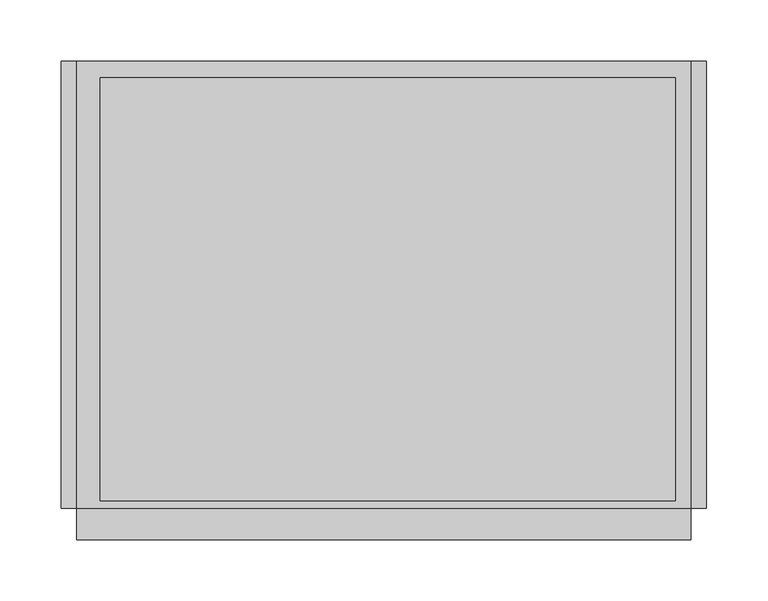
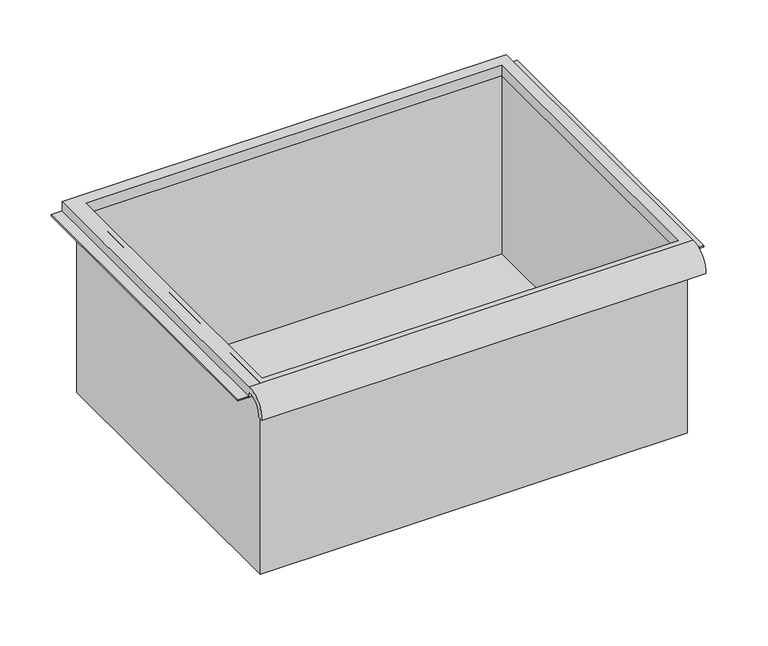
"""IFC4 building model written with IfcOpenShell, lengths in millimetres: furniture geometry."""

from ifc_helpers import new_model, si_unit, frame, origin, place, context, project, spatial, polyline, circle_curve, faceted_brep, source, transform, mapped, element, save
from ifc_brep_helpers import plane_surface, cylinder_surface, revolved_surface, advanced_brep


def furniture_b8eafee2(model_context):
    return source(origin(), model_context, "Body", "SolidModel", [
        advanced_brep(
        [(263.7474999, -195.297482, 1466.0510272), (263.7474999, -188.9125, 1466.0510272), (263.7474999, -169.8625, 1484.3125004), (263.7474999, -169.8625, 1477.9625), (263.7474999, 195.2625, 1477.9625), (263.7474999, 195.2625, 1490.6625004), (263.7474999, -169.8625, 1490.6625004), (-237.9025001, -195.297482, 1466.0510272), (-237.9025001, -169.8625, 1490.6625004), (-237.9025001, 195.2625, 1490.6625004), (-237.9025001, 195.2625, 1477.9625), (-237.9025001, -169.8625, 1477.9625), (-237.9025001, -169.8625, 1484.3125004), (-237.9025001, -188.9125, 1466.0510272), (251.0474878, 181.9275, 1477.9625), (-218.8095642, 181.9275, 1477.9625), (-218.8095642, -163.5125, 1477.9625), (251.0474878, -163.5125, 1477.9625), (-218.8095642, 181.9275, 1490.6625004), (251.0474878, 181.9275, 1490.6625004), (251.0474878, -163.5125, 1490.6625004), (-218.8095642, -163.5125, 1490.6625004)],
        [
            (0, 1),
            (1, 2, circle_curve(frame((263.7474999, -172.3404634, 1467.8304376), z_axis=(-1.0, 0.0, 0.0), x_axis=(0.0, 1.0, 0.0)), 16.6672942)),
            (2, 3),
            (3, 4),
            (4, 5),
            (5, 6),
            (6, 0, circle_curve(frame((263.7474999, -172.4601678, 1467.8983276), z_axis=(1.0, 0.0, 0.0), x_axis=(0.0, 1.0, 0.0)), 22.9119061)),
            (7, 8, circle_curve(frame((-237.9025001, -172.4601678, 1467.8983276), z_axis=(-1.0, 0.0, 0.0), x_axis=(0.0, 1.0, 0.0)), 22.9119061)),
            (8, 9),
            (9, 10),
            (10, 11),
            (11, 12),
            (12, 13, circle_curve(frame((-237.9025001, -172.3404634, 1467.8304376), z_axis=(1.0, 0.0, 0.0), x_axis=(0.0, 1.0, 0.0)), 16.6672942)),
            (13, 7),
            (0, 7),
            (13, 1),
            (12, 2),
            (11, 3),
            (10, 4),
            (14, 15),
            (15, 16),
            (16, 17),
            (17, 14),
            (9, 5),
            (8, 6),
            (18, 19),
            (19, 20),
            (20, 21),
            (21, 18),
            (14, 19),
            (18, 15),
            (21, 16),
            (20, 17),
        ],
        [
            plane_surface(frame((263.7474999, -195.297482, 1466.0510272), z_axis=(1.0, 0.0, 0.0), x_axis=(0.0, 1.0, 0.0))),
            plane_surface(frame((-237.9025001, -195.297482, 1466.0510272), z_axis=(-1.0, 0.0, 0.0), x_axis=(0.0, -1.0, 0.0))),
            plane_surface(frame((263.7474999, -195.297482, 1466.0510272), z_axis=(0.0, 0.0, -1.0), x_axis=(-1.0, 0.0, 0.0))),
            revolved_surface(polyline([(-237.9025001, -155.67316920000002, 1467.8304376), (263.7474999, -155.67316920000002, 1467.8304376)]), (-237.9025001, -172.3404634, 1467.8304376), (-1.0, 0.0, 0.0)),
            plane_surface(frame((263.7474999, -169.8625, 1484.3125004), z_axis=(0.0, -1.0, 0.0), x_axis=(-1.0, 0.0, 0.0))),
            plane_surface(frame((263.7474999, -169.8625, 1477.9625), z_axis=(0.0, 0.0, -1.0), x_axis=(-1.0, 0.0, 0.0))),
            plane_surface(frame((263.7474999, 195.2625, 1477.9625), z_axis=(0.0, 1.0, 0.0), x_axis=(-1.0, 0.0, 0.0))),
            plane_surface(frame((263.7474999, 195.2625, 1490.6625004), z_axis=(0.0, 0.0, 1.0), x_axis=(-1.0, 0.0, 0.0))),
            cylinder_surface(frame((-237.9025001, -172.4601678, 1467.8983276), z_axis=(1.0, 0.0, 0.0), x_axis=(0.0, 1.0, 0.0)), 22.9119061),
            plane_surface(frame((251.0474878, 181.9275, 1490.6625004), z_axis=(0.0, -1.0, 0.0), x_axis=(0.0, 0.0, -1.0))),
            plane_surface(frame((-218.8095642, 181.9275, 1490.6625004), z_axis=(1.0, 0.0, 0.0), x_axis=(0.0, 0.0, -1.0))),
            plane_surface(frame((-218.8095642, -163.5125, 1490.6625004), z_axis=(0.0, 1.0, 0.0), x_axis=(0.0, 0.0, -1.0))),
            plane_surface(frame((251.0474878, -163.5125, 1490.6625004), z_axis=(-1.0, 0.0, 0.0), x_axis=(0.0, 0.0, -1.0))),
        ],
        [
            (0, [[1, 2, 3, 4, 5, 6, 7]]),
            (1, [[8, 9, 10, 11, 12, 13, 14]]),
            (2, [[-1, 15, -14, 16]]),
            (3, [[-2, -16, -13, 17]]),
            (4, [[-3, -17, -12, 18]]),
            (5, [[-4, -18, -11, 19], [20, 21, 22, 23]]),
            (6, [[-5, -19, -10, 24]]),
            (7, [[-6, -24, -9, 25], [26, 27, 28, 29]]),
            (8, [[-7, -25, -8, -15]]),
            (9, [[30, -26, 31, -20]]),
            (10, [[-31, -29, 32, -21]]),
            (11, [[-32, -28, 33, -22]]),
            (12, [[-30, -23, -33, -27]]),
        ],
    ),
        faceted_brep([(-225.2025001, -169.8625, 1262.0625004), (257.3974878, -169.8625, 1262.0625004), (257.3974878, -169.8625, 1490.6625004), (-225.2025001, -169.8625, 1490.6625004), (-225.2025001, 188.9125, 1262.0625004), (-225.2025001, 188.9125, 1490.6625004), (257.3974878, 188.9125, 1490.6625004), (257.3974878, 188.9125, 1262.0625004), (-218.8095642, 181.9275, 1490.6625004), (251.0474878, 181.9275, 1490.6625004), (251.0474878, -163.5125, 1490.6625004), (-218.8095642, -163.5125, 1490.6625004), (251.0474878, 181.9275, 1265.2375004), (-218.8095642, 181.9275, 1265.2375004), (-218.8095642, -163.5125, 1265.2375004), (251.0474878, -163.5125, 1265.2375004)], [[[0, 1, 2, 3]], [[4, 5, 6, 7]], [[1, 0, 4, 7]], [[2, 1, 7, 6]], [[3, 2, 6, 5], [8, 9, 10, 11]], [[0, 3, 5, 4]], [[12, 13, 14, 15]], [[13, 12, 9, 8]], [[14, 13, 8, 11]], [[15, 14, 11, 10]], [[12, 15, 10, 9]]]),
        faceted_brep([(-250.6025001, 195.2625, 1477.9625), (-250.6025001, 195.2625, 1479.55), (-231.5525001, 195.2625, 1479.55), (-231.5525001, 195.2625, 1477.9625), (-250.6025001, -169.8625, 1477.9625), (-231.5525001, -169.8625, 1477.9625), (-231.5525001, -169.8625, 1479.55), (-250.6025001, -169.8625, 1479.55)], [[[0, 1, 2, 3]], [[4, 5, 6, 7]], [[1, 0, 4, 7]], [[2, 1, 7, 6]], [[3, 2, 6, 5]], [[0, 3, 5, 4]]]),
        faceted_brep([(276.4474999, 195.2625, 1477.9625), (263.7474999, 195.2625, 1477.9625), (263.7474999, 195.2625, 1479.55), (276.4474999, 195.2625, 1479.55), (276.4474999, -169.8625, 1477.9625), (276.4474999, -169.8625, 1479.55), (263.7474999, -169.8625, 1479.55), (263.7474999, -169.8625, 1477.9625)], [[[0, 1, 2, 3]], [[4, 5, 6, 7]], [[1, 0, 4, 7]], [[2, 1, 7, 6]], [[3, 2, 6, 5]], [[0, 3, 5, 4]]]),
    ])


if __name__ == "__main__":
    model = new_model("IFC4")
    model_context = context("Model", 3, world=origin())
    ifc_project = project(units=[si_unit("LENGTHUNIT", "METRE", prefix="MILLI")], contexts=[model_context])
    site = spatial("IfcSite", under=ifc_project)
    building = spatial("IfcBuilding", under=site)
    placement = place(None, origin())
    furniture_shape = furniture_b8eafee2(model_context)
    element("IfcFurniture", 1, ObjectType="HermanMiller_Carts_CT501_Drawer : 9\"H x 15\"D x 20\"W", at=placement, inside=building, context=model_context, shape_type="MappedRepresentation", body=[
        mapped(furniture_shape, transform((0.0, 0.0, 0.0), x_axis=(1.0, 0.0, 0.0), y_axis=(0.0, 1.0, 0.0), z_axis=(0.0, 0.0, 1.0))),
    ])
    save(model, "model.ifc")
